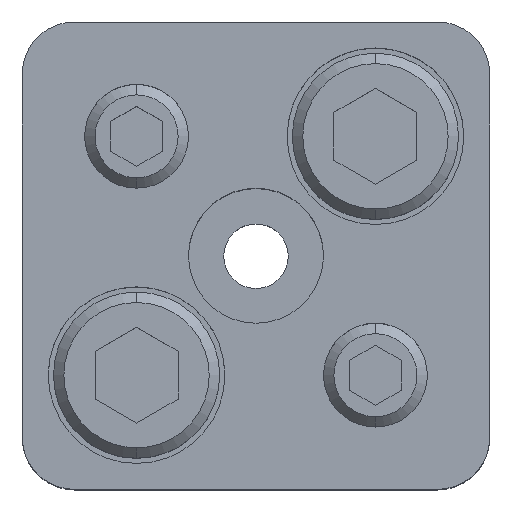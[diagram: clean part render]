
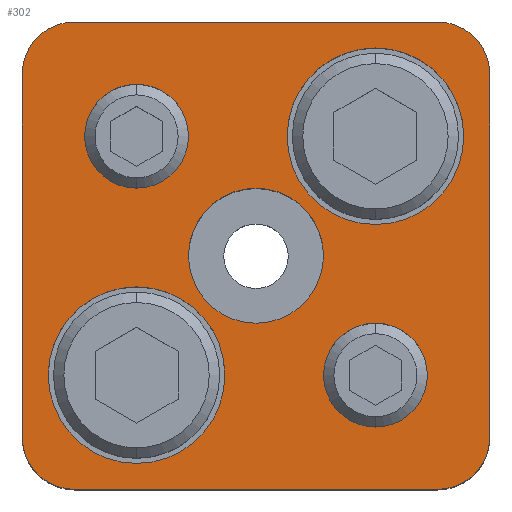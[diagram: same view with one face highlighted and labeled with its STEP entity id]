
A CAD part, top view. The second image highlights one B-rep face of the part: STEP entity #302.
In plain terms, the highlighted planar face has unit normal (0, 0, 1).
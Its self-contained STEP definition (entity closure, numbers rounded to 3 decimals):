
#165=FACE_BOUND('',#685,.T.);
#166=FACE_BOUND('',#686,.T.);
#167=FACE_BOUND('',#687,.T.);
#168=FACE_BOUND('',#688,.T.);
#169=FACE_BOUND('',#689,.T.);
#170=FACE_BOUND('',#690,.T.);
#211=PLANE('',#2792);
#302=ADVANCED_FACE('',(#165,#166,#167,#168,#169,#170),#211,.T.);
#685=EDGE_LOOP('',(#1147,#1148,#1149,#1150,#1151,#1152,#1153,#1154));
#686=EDGE_LOOP('',(#1155,#1156));
#687=EDGE_LOOP('',(#1157,#1158));
#688=EDGE_LOOP('',(#1159,#1160));
#689=EDGE_LOOP('',(#1161,#1162));
#690=EDGE_LOOP('',(#1163,#1164));
#877=CIRCLE('',#2768,8.5);
#879=CIRCLE('',#2771,8.5);
#881=CIRCLE('',#2775,8.5);
#883=CIRCLE('',#2778,8.5);
#885=CIRCLE('',#2782,5.);
#886=CIRCLE('',#2783,5.);
#887=CIRCLE('',#2784,5.);
#888=CIRCLE('',#2785,5.);
#889=CIRCLE('',#2786,5.);
#890=CIRCLE('',#2787,5.);
#891=CIRCLE('',#2788,5.);
#892=CIRCLE('',#2789,5.);
#893=CIRCLE('',#2790,6.5);
#894=CIRCLE('',#2791,6.5);
#1147=ORIENTED_EDGE('',*,*,#2031,.T.);
#1148=ORIENTED_EDGE('',*,*,#2032,.T.);
#1149=ORIENTED_EDGE('',*,*,#2033,.T.);
#1150=ORIENTED_EDGE('',*,*,#2034,.T.);
#1151=ORIENTED_EDGE('',*,*,#2035,.T.);
#1152=ORIENTED_EDGE('',*,*,#2036,.T.);
#1153=ORIENTED_EDGE('',*,*,#2037,.T.);
#1154=ORIENTED_EDGE('',*,*,#2038,.T.);
#1155=ORIENTED_EDGE('',*,*,#2039,.F.);
#1156=ORIENTED_EDGE('',*,*,#2040,.F.);
#1157=ORIENTED_EDGE('',*,*,#2041,.F.);
#1158=ORIENTED_EDGE('',*,*,#2042,.F.);
#1159=ORIENTED_EDGE('',*,*,#2029,.F.);
#1160=ORIENTED_EDGE('',*,*,#2025,.F.);
#1161=ORIENTED_EDGE('',*,*,#2023,.F.);
#1162=ORIENTED_EDGE('',*,*,#2019,.F.);
#1163=ORIENTED_EDGE('',*,*,#2043,.T.);
#1164=ORIENTED_EDGE('',*,*,#2044,.T.);
#1767=VERTEX_POINT('',#4005);
#1768=VERTEX_POINT('',#4006);
#1771=VERTEX_POINT('',#4018);
#1772=VERTEX_POINT('',#4019);
#1775=VERTEX_POINT('',#4031);
#1776=VERTEX_POINT('',#4032);
#1777=VERTEX_POINT('',#4034);
#1778=VERTEX_POINT('',#4036);
#1779=VERTEX_POINT('',#4038);
#1780=VERTEX_POINT('',#4040);
#1781=VERTEX_POINT('',#4042);
#1782=VERTEX_POINT('',#4044);
#1783=VERTEX_POINT('',#4047);
#1784=VERTEX_POINT('',#4048);
#1785=VERTEX_POINT('',#4051);
#1786=VERTEX_POINT('',#4052);
#1787=VERTEX_POINT('',#4055);
#1788=VERTEX_POINT('',#4056);
#2019=EDGE_CURVE('',#1767,#1768,#877,.T.);
#2023=EDGE_CURVE('',#1768,#1767,#879,.T.);
#2025=EDGE_CURVE('',#1771,#1772,#881,.T.);
#2029=EDGE_CURVE('',#1772,#1771,#883,.T.);
#2031=EDGE_CURVE('',#1775,#1776,#885,.T.);
#2032=EDGE_CURVE('',#1776,#1777,#2349,.T.);
#2033=EDGE_CURVE('',#1777,#1778,#886,.T.);
#2034=EDGE_CURVE('',#1778,#1779,#2350,.T.);
#2035=EDGE_CURVE('',#1779,#1780,#887,.T.);
#2036=EDGE_CURVE('',#1780,#1781,#2351,.T.);
#2037=EDGE_CURVE('',#1781,#1782,#888,.T.);
#2038=EDGE_CURVE('',#1782,#1775,#2352,.T.);
#2039=EDGE_CURVE('',#1783,#1784,#889,.T.);
#2040=EDGE_CURVE('',#1784,#1783,#890,.T.);
#2041=EDGE_CURVE('',#1785,#1786,#891,.T.);
#2042=EDGE_CURVE('',#1786,#1785,#892,.T.);
#2043=EDGE_CURVE('',#1787,#1788,#893,.T.);
#2044=EDGE_CURVE('',#1788,#1787,#894,.T.);
#2349=LINE('',#4033,#2545);
#2350=LINE('',#4037,#2546);
#2351=LINE('',#4041,#2547);
#2352=LINE('',#4045,#2548);
#2545=VECTOR('',#3215,1.);
#2546=VECTOR('',#3218,1.);
#2547=VECTOR('',#3221,1.);
#2548=VECTOR('',#3224,1.);
#2768=AXIS2_PLACEMENT_3D('',#4004,#3181,#3182);
#2771=AXIS2_PLACEMENT_3D('',#4013,#3189,#3190);
#2775=AXIS2_PLACEMENT_3D('',#4017,#3197,#3198);
#2778=AXIS2_PLACEMENT_3D('',#4026,#3205,#3206);
#2782=AXIS2_PLACEMENT_3D('',#4030,#3213,#3214);
#2783=AXIS2_PLACEMENT_3D('',#4035,#3216,#3217);
#2784=AXIS2_PLACEMENT_3D('',#4039,#3219,#3220);
#2785=AXIS2_PLACEMENT_3D('',#4043,#3222,#3223);
#2786=AXIS2_PLACEMENT_3D('',#4046,#3225,#3226);
#2787=AXIS2_PLACEMENT_3D('',#4049,#3227,#3228);
#2788=AXIS2_PLACEMENT_3D('',#4050,#3229,#3230);
#2789=AXIS2_PLACEMENT_3D('',#4053,#3231,#3232);
#2790=AXIS2_PLACEMENT_3D('',#4054,#3233,#3234);
#2791=AXIS2_PLACEMENT_3D('',#4057,#3235,#3236);
#2792=AXIS2_PLACEMENT_3D('',#4058,#3237,#3238);
#3181=DIRECTION('',(0.,0.,1.));
#3182=DIRECTION('',(-1.,0.,0.));
#3189=DIRECTION('',(0.,0.,1.));
#3190=DIRECTION('',(1.,0.,0.));
#3197=DIRECTION('',(0.,0.,1.));
#3198=DIRECTION('',(-1.,0.,0.));
#3205=DIRECTION('',(0.,0.,1.));
#3206=DIRECTION('',(1.,0.,0.));
#3213=DIRECTION('',(0.,0.,1.));
#3214=DIRECTION('',(-0.707,-0.707,0.));
#3215=DIRECTION('',(-1.,0.,0.));
#3216=DIRECTION('',(0.,0.,1.));
#3217=DIRECTION('',(0.707,-0.707,0.));
#3218=DIRECTION('',(0.,-1.,0.));
#3219=DIRECTION('',(0.,0.,1.));
#3220=DIRECTION('',(0.707,0.707,0.));
#3221=DIRECTION('',(1.,0.,0.));
#3222=DIRECTION('',(0.,0.,1.));
#3223=DIRECTION('',(-0.707,0.707,0.));
#3224=DIRECTION('',(0.,1.,0.));
#3225=DIRECTION('',(0.,0.,1.));
#3226=DIRECTION('',(1.,0.,0.));
#3227=DIRECTION('',(0.,0.,1.));
#3228=DIRECTION('',(-1.,0.,0.));
#3229=DIRECTION('',(0.,0.,1.));
#3230=DIRECTION('',(1.,0.,0.));
#3231=DIRECTION('',(0.,0.,1.));
#3232=DIRECTION('',(-1.,0.,0.));
#3233=DIRECTION('',(0.,0.,-1.));
#3234=DIRECTION('',(-1.,0.,0.));
#3235=DIRECTION('',(0.,0.,-1.));
#3236=DIRECTION('',(1.,0.,0.));
#3237=DIRECTION('',(0.,0.,1.));
#3238=DIRECTION('',(0.,-1.,0.));
#4004=CARTESIAN_POINT('',(11.5,11.5,35.));
#4005=CARTESIAN_POINT('',(11.5,3.,35.));
#4006=CARTESIAN_POINT('',(11.5,20.,35.));
#4013=CARTESIAN_POINT('',(11.5,11.5,35.));
#4017=CARTESIAN_POINT('',(-11.5,-11.5,35.));
#4018=CARTESIAN_POINT('',(-11.5,-20.,35.));
#4019=CARTESIAN_POINT('',(-11.5,-3.,35.));
#4026=CARTESIAN_POINT('',(-11.5,-11.5,35.));
#4030=CARTESIAN_POINT('',(17.5,17.5,35.));
#4031=CARTESIAN_POINT('',(22.5,17.5,35.));
#4032=CARTESIAN_POINT('',(17.5,22.5,35.));
#4033=CARTESIAN_POINT('',(17.5,22.5,35.));
#4034=CARTESIAN_POINT('',(-17.5,22.5,35.));
#4035=CARTESIAN_POINT('',(-17.5,17.5,35.));
#4036=CARTESIAN_POINT('',(-22.5,17.5,35.));
#4037=CARTESIAN_POINT('',(-22.5,17.5,35.));
#4038=CARTESIAN_POINT('',(-22.5,-17.5,35.));
#4039=CARTESIAN_POINT('',(-17.5,-17.5,35.));
#4040=CARTESIAN_POINT('',(-17.5,-22.5,35.));
#4041=CARTESIAN_POINT('',(17.5,-22.5,35.));
#4042=CARTESIAN_POINT('',(17.5,-22.5,35.));
#4043=CARTESIAN_POINT('',(17.5,-17.5,35.));
#4044=CARTESIAN_POINT('',(22.5,-17.5,35.));
#4045=CARTESIAN_POINT('',(22.5,17.5,35.));
#4046=CARTESIAN_POINT('',(-11.5,11.5,35.));
#4047=CARTESIAN_POINT('',(-11.5,16.5,35.));
#4048=CARTESIAN_POINT('',(-11.5,6.5,35.));
#4049=CARTESIAN_POINT('',(-11.5,11.5,35.));
#4050=CARTESIAN_POINT('',(11.5,-11.5,35.));
#4051=CARTESIAN_POINT('',(11.5,-6.5,35.));
#4052=CARTESIAN_POINT('',(11.5,-16.5,35.));
#4053=CARTESIAN_POINT('',(11.5,-11.5,35.));
#4054=CARTESIAN_POINT('',(0.,0.,35.));
#4055=CARTESIAN_POINT('',(0.,6.5,35.));
#4056=CARTESIAN_POINT('',(0.,-6.5,35.));
#4057=CARTESIAN_POINT('',(0.,0.,35.));
#4058=CARTESIAN_POINT('',(22.5,17.5,35.));
